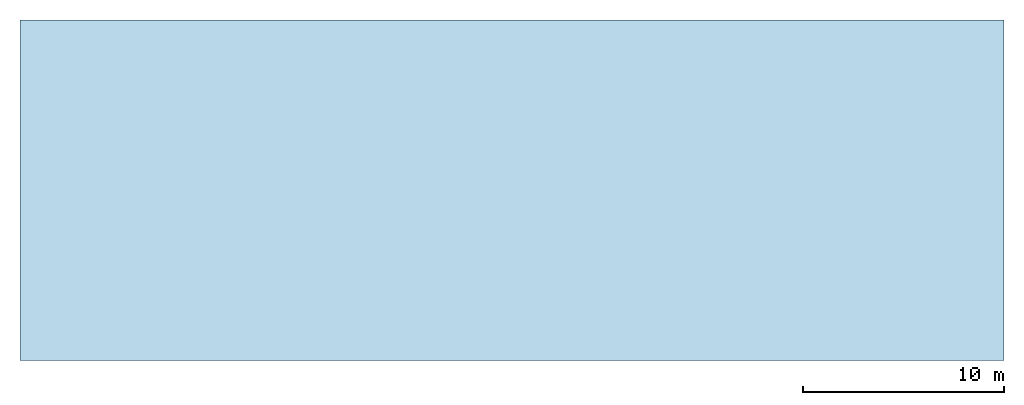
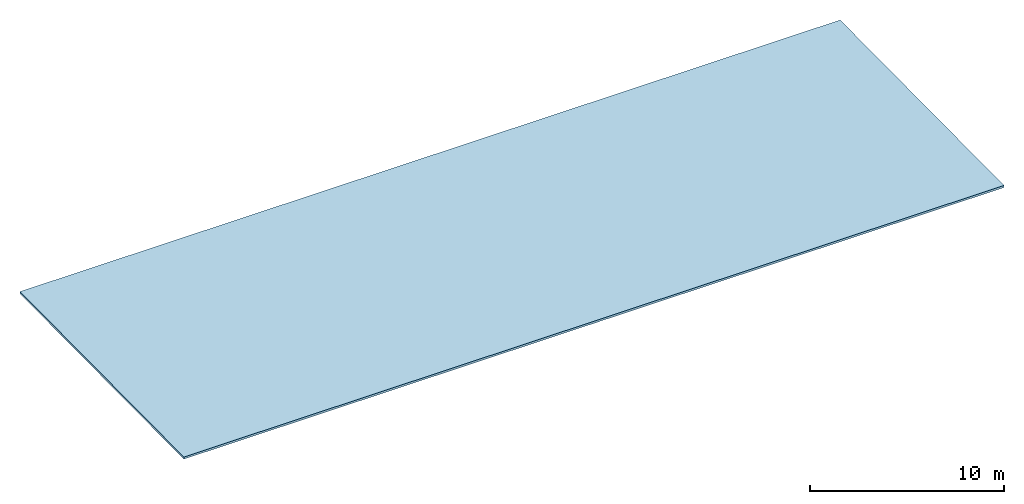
# One storey: 1 slab.
"""IFC4X3 building model written with IfcOpenShell, lengths in millimetres."""

from ifc_helpers import new_model, entity, si_unit, converted_unit, derived_unit, direction, frame, origin, place, context, subcontext, project, spatial, faceted_brep, type_object, element, save


model = new_model("IFC4X3")

# Units and contexts
model_context = context("Model", 3, precision=0.01, world=origin(), true_north=direction((6.12303176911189e-17, 1.0)))
body_context = subcontext(model_context, "Body", "Model", "MODEL_VIEW")
ifc_project = project(units=[si_unit("LENGTHUNIT", "METRE", prefix="MILLI"), si_unit("AREAUNIT", "SQUARE_METRE"), si_unit("VOLUMEUNIT", "CUBIC_METRE"), converted_unit("PLANEANGLEUNIT", "DEGREE", entity("IfcPlaneAngleMeasure", 0.0174532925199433), si_unit("PLANEANGLEUNIT", "RADIAN"), dimensions=[0, 0, 0, 0, 0, 0, 0]), si_unit("MASSUNIT", "GRAM", prefix="KILO"), derived_unit("MASSDENSITYUNIT", [(si_unit("MASSUNIT", "GRAM", prefix="KILO"), 1), (si_unit("LENGTHUNIT", "METRE"), -3)]), derived_unit("IONCONCENTRATIONUNIT", [(si_unit("MASSUNIT", "GRAM", prefix="KILO"), 1), (si_unit("LENGTHUNIT", "METRE"), -3)]), derived_unit("MOMENTOFINERTIAUNIT", [(si_unit("LENGTHUNIT", "METRE"), 4)]), si_unit("TIMEUNIT", "SECOND"), si_unit("FREQUENCYUNIT", "HERTZ"), si_unit("THERMODYNAMICTEMPERATUREUNIT", "DEGREE_CELSIUS"), derived_unit("THERMALTRANSMITTANCEUNIT", [(si_unit("MASSUNIT", "GRAM", prefix="KILO"), 1), (si_unit("THERMODYNAMICTEMPERATUREUNIT", "KELVIN"), -1), (si_unit("TIMEUNIT", "SECOND"), -3)]), derived_unit("THERMALCONDUCTANCEUNIT", [(si_unit("MASSUNIT", "GRAM", prefix="KILO"), 1), (si_unit("THERMODYNAMICTEMPERATUREUNIT", "KELVIN"), -1), (si_unit("TIMEUNIT", "SECOND"), -3), (si_unit("LENGTHUNIT", "METRE"), 1)]), derived_unit("VOLUMETRICFLOWRATEUNIT", [(si_unit("LENGTHUNIT", "METRE", prefix="DECI"), 3), (si_unit("TIMEUNIT", "SECOND"), -1)]), derived_unit("MASSFLOWRATEUNIT", [(si_unit("MASSUNIT", "GRAM", prefix="KILO"), 1), (si_unit("TIMEUNIT", "SECOND"), -1)]), derived_unit("ROTATIONALFREQUENCYUNIT", [(si_unit("TIMEUNIT", "SECOND"), -1)]), si_unit("ELECTRICCURRENTUNIT", "AMPERE"), si_unit("ELECTRICVOLTAGEUNIT", "VOLT"), si_unit("POWERUNIT", "WATT"), si_unit("FORCEUNIT", "NEWTON", prefix="KILO"), si_unit("ILLUMINANCEUNIT", "LUX"), si_unit("LUMINOUSFLUXUNIT", "LUMEN"), si_unit("LUMINOUSINTENSITYUNIT", "CANDELA"), si_unit("ENERGYUNIT", "JOULE"), derived_unit("USERDEFINED", [(si_unit("MASSUNIT", "GRAM", prefix="KILO"), -1), (si_unit("LENGTHUNIT", "METRE"), -2), (si_unit("TIMEUNIT", "SECOND"), 3), (si_unit("LUMINOUSFLUXUNIT", "LUMEN"), 1)]), derived_unit("USERDEFINED", [(si_unit("MASSUNIT", "GRAM", prefix="KILO"), 1), (si_unit("TIMEUNIT", "SECOND"), -3), (si_unit("LENGTHUNIT", "METRE"), 3), (si_unit("ELECTRICCURRENTUNIT", "AMPERE"), -2)]), derived_unit("SOUNDPOWERUNIT", [(si_unit("MASSUNIT", "GRAM", prefix="KILO"), 1), (si_unit("TIMEUNIT", "SECOND"), -3), (si_unit("LENGTHUNIT", "METRE"), 2)]), derived_unit("SOUNDPRESSUREUNIT", [(si_unit("MASSUNIT", "GRAM", prefix="KILO"), 1), (si_unit("LENGTHUNIT", "METRE"), -1), (si_unit("TIMEUNIT", "SECOND"), -2)]), derived_unit("LINEARVELOCITYUNIT", [(si_unit("LENGTHUNIT", "METRE"), 1), (si_unit("TIMEUNIT", "SECOND"), -1)]), si_unit("PRESSUREUNIT", "PASCAL"), derived_unit("USERDEFINED", [(si_unit("MASSUNIT", "GRAM", prefix="KILO"), 1), (si_unit("LENGTHUNIT", "METRE"), -2), (si_unit("TIMEUNIT", "SECOND"), -2)]), derived_unit("LINEARFORCEUNIT", [(si_unit("MASSUNIT", "GRAM", prefix="KILO"), 1), (si_unit("TIMEUNIT", "SECOND"), -2)]), derived_unit("PLANARFORCEUNIT", [(si_unit("MASSUNIT", "GRAM", prefix="KILO"), 1), (si_unit("LENGTHUNIT", "METRE"), -1), (si_unit("TIMEUNIT", "SECOND"), -2)]), derived_unit("SPECIFICHEATCAPACITYUNIT", [(si_unit("THERMODYNAMICTEMPERATUREUNIT", "KELVIN"), -1), (si_unit("LENGTHUNIT", "METRE"), 2), (si_unit("TIMEUNIT", "SECOND"), -2)]), derived_unit("HEATFLUXDENSITYUNIT", [(si_unit("MASSUNIT", "GRAM", prefix="KILO"), 1), (si_unit("TIMEUNIT", "SECOND"), -3)]), derived_unit("HEATINGVALUEUNIT", [(si_unit("LENGTHUNIT", "METRE"), 2), (si_unit("TIMEUNIT", "SECOND"), -2)]), derived_unit("VAPORPERMEABILITYUNIT", [(si_unit("LENGTHUNIT", "METRE"), -1), (si_unit("TIMEUNIT", "SECOND"), 1)]), derived_unit("DYNAMICVISCOSITYUNIT", [(si_unit("MASSUNIT", "GRAM", prefix="KILO"), 1), (si_unit("TIMEUNIT", "SECOND"), -1), (si_unit("LENGTHUNIT", "METRE"), -1)]), derived_unit("THERMALEXPANSIONCOEFFICIENTUNIT", [(si_unit("THERMODYNAMICTEMPERATUREUNIT", "KELVIN"), -1)]), derived_unit("MODULUSOFELASTICITYUNIT", [(si_unit("MASSUNIT", "GRAM", prefix="KILO"), 1), (si_unit("LENGTHUNIT", "METRE"), -1), (si_unit("TIMEUNIT", "SECOND"), -2)]), derived_unit("ISOTHERMALMOISTURECAPACITYUNIT", [(si_unit("MASSUNIT", "GRAM", prefix="KILO"), -1), (si_unit("LENGTHUNIT", "METRE"), 3)]), derived_unit("MOISTUREDIFFUSIVITYUNIT", [(si_unit("TIMEUNIT", "SECOND"), -1), (si_unit("LENGTHUNIT", "METRE"), 2)]), derived_unit("AREADENSITYUNIT", [(si_unit("MASSUNIT", "GRAM", prefix="KILO"), 1), (si_unit("LENGTHUNIT", "METRE"), 2)]), derived_unit("MASSPERLENGTHUNIT", [(si_unit("MASSUNIT", "GRAM", prefix="KILO"), 1), (si_unit("LENGTHUNIT", "METRE"), -1)]), derived_unit("THERMALRESISTANCEUNIT", [(si_unit("MASSUNIT", "GRAM", prefix="KILO"), -1), (si_unit("TIMEUNIT", "SECOND"), 3), (si_unit("THERMODYNAMICTEMPERATUREUNIT", "KELVIN"), 1)]), derived_unit("ACCELERATIONUNIT", [(si_unit("LENGTHUNIT", "METRE"), 1), (si_unit("TIMEUNIT", "SECOND"), -2)]), derived_unit("ANGULARVELOCITYUNIT", [(si_unit("TIMEUNIT", "SECOND"), -1), (si_unit("PLANEANGLEUNIT", "RADIAN"), 1)]), derived_unit("LINEARSTIFFNESSUNIT", [(si_unit("MASSUNIT", "GRAM", prefix="KILO"), 1), (si_unit("TIMEUNIT", "SECOND"), -2)]), derived_unit("WARPINGCONSTANTUNIT", [(si_unit("LENGTHUNIT", "METRE"), 6)]), derived_unit("LINEARMOMENTUNIT", [(si_unit("MASSUNIT", "GRAM", prefix="KILO"), 1), (si_unit("LENGTHUNIT", "METRE"), 1), (si_unit("TIMEUNIT", "SECOND"), -2)]), derived_unit("TORQUEUNIT", [(si_unit("MASSUNIT", "GRAM", prefix="KILO"), 1), (si_unit("LENGTHUNIT", "METRE"), 2), (si_unit("TIMEUNIT", "SECOND"), -2)])], contexts=[model_context])

# Site, building, storey
site_placement = place(None, origin())
site = spatial("IfcSite", under=ifc_project, at=site_placement, Name="Default", CompositionType="ELEMENT")
building_placement = place(site_placement, origin())
building = spatial("IfcBuilding", under=site, at=building_placement, Name="事務所ビル", CompositionType="ELEMENT")
storey_placement = place(building_placement, frame((0.0, 0.0, 11470.0)))
storey = spatial("IfcBuildingStorey", under=building, at=storey_placement, Name="RFL", CompositionType="ELEMENT", Elevation=11470.0)

# Slab
slab_type = type_object("IfcSlabType", Name="標準屋根:(屋根)シート防水", PredefinedType="NOTDEFINED")
slab_placement = place(storey_placement, frame((132.0, 117.0, 0.0)))
element("IfcSlab", 1, at=slab_placement, inside=storey, type_object=slab_type, Name="標準屋根:(屋根)シート防水", ObjectType="標準屋根:(屋根)シート防水", PredefinedType="NOTDEFINED", context=body_context, shape_type="Brep", body=[
    faceted_brep([(0.0, 0.0, 133.506606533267), (0.0, 16913.0, 301.769053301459), (0.0, 16913.0, 168.262446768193), (0.0, 0.0, 0.0), (48876.0, 16913.0, 301.769053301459), (48876.0, 0.0, 133.506606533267), (48876.0, 0.0, 0.0), (48876.0, 16913.0, 168.262446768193), (30076.0, 0.0, 133.506606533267), (30076.0, 0.0, 0.0), (30076.0, 3.0, 0.029846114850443), (24742.0, 3.0, 0.029846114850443), (24742.0, 0.0, 0.0), (24742.0, 0.0, 133.506606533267), (24742.0, 3.0, 133.536452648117), (30076.0, 3.0, 133.536452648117)], [[[0, 1, 2, 3]], [[4, 5, 6, 7]], [[6, 5, 8, 9]], [[1, 4, 7, 2]], [[2, 7, 6, 9, 10, 11, 12, 3]], [[4, 1, 0, 13, 14, 15, 8, 5]], [[12, 13, 0, 3]], [[14, 13, 12, 11]], [[15, 14, 11, 10]], [[8, 15, 10, 9]]]),
])

save(model, "model.ifc")
